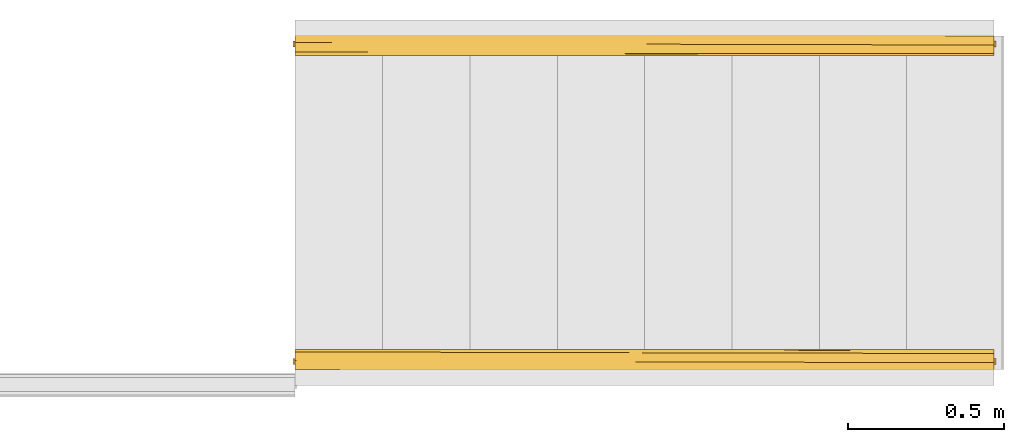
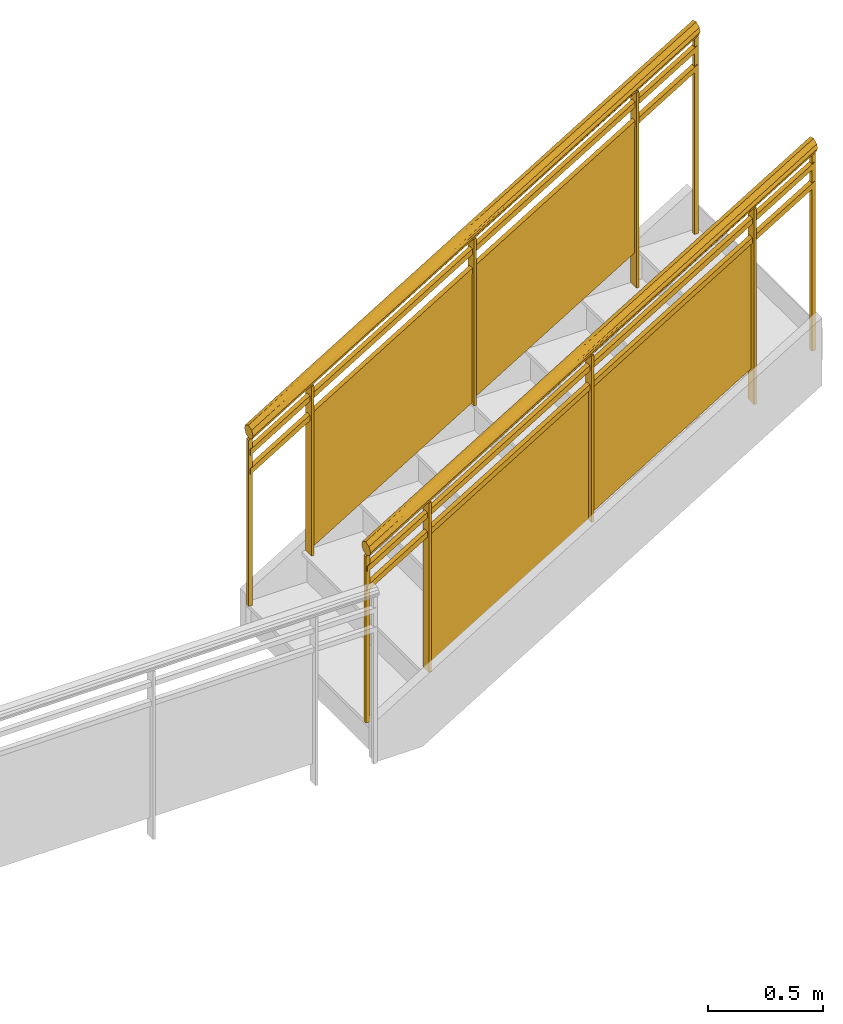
# One storey, part 4 of 4: 2 railings, 1 element without a shape of its own.
"""IFC2X3 building model written with IfcOpenShell, lengths in feet."""

from ifc_helpers import new_model, entity, si_unit, converted_unit, derived_unit, direction, frame, origin, place, context, subcontext, project, spatial, faceted_brep, material, material_list, element, aggregate, save


model = new_model("IFC2X3")

# Units and contexts
model_context = context("Model", 3, precision=0.0001, world=origin(), true_north=direction((6.12303176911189e-17, 1.0)))
body_context = subcontext(model_context, "Body", "Model", "MODEL_VIEW")
ifc_project = project(units=[converted_unit("LENGTHUNIT", "FOOT", entity("IfcRatioMeasure", 0.3048), si_unit("LENGTHUNIT", "METRE"), dimensions=[1, 0, 0, 0, 0, 0, 0]), converted_unit("AREAUNIT", "SQUARE FOOT", entity("IfcRatioMeasure", 0.09290304), si_unit("AREAUNIT", "SQUARE_METRE"), dimensions=[2, 0, 0, 0, 0, 0, 0]), converted_unit("VOLUMEUNIT", "CUBIC FOOT", entity("IfcRatioMeasure", 0.028316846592), si_unit("VOLUMEUNIT", "CUBIC_METRE"), dimensions=[3, 0, 0, 0, 0, 0, 0]), converted_unit("PLANEANGLEUNIT", "DEGREE", entity("IfcRatioMeasure", 0.0174532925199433), si_unit("PLANEANGLEUNIT", "RADIAN"), dimensions=[0, 0, 0, 0, 0, 0, 0]), si_unit("MASSUNIT", "GRAM", prefix="KILO"), derived_unit("MASSDENSITYUNIT", [(si_unit("MASSUNIT", "GRAM", prefix="KILO"), 1), (si_unit("LENGTHUNIT", "METRE"), -3)]), si_unit("TIMEUNIT", "SECOND"), si_unit("FREQUENCYUNIT", "HERTZ"), si_unit("THERMODYNAMICTEMPERATUREUNIT", "DEGREE_CELSIUS"), derived_unit("THERMALTRANSMITTANCEUNIT", [(si_unit("MASSUNIT", "GRAM", prefix="KILO"), 1), (si_unit("THERMODYNAMICTEMPERATUREUNIT", "KELVIN"), -1), (si_unit("TIMEUNIT", "SECOND"), -3)]), derived_unit("VOLUMETRICFLOWRATEUNIT", [(si_unit("LENGTHUNIT", "METRE"), 3), (si_unit("TIMEUNIT", "SECOND"), -1)]), si_unit("ELECTRICCURRENTUNIT", "AMPERE"), si_unit("ELECTRICVOLTAGEUNIT", "VOLT"), si_unit("POWERUNIT", "WATT"), si_unit("FORCEUNIT", "NEWTON"), si_unit("ILLUMINANCEUNIT", "LUX"), si_unit("LUMINOUSFLUXUNIT", "LUMEN"), si_unit("LUMINOUSINTENSITYUNIT", "CANDELA"), derived_unit("USERDEFINED", [(si_unit("MASSUNIT", "GRAM", prefix="KILO"), -1), (si_unit("LENGTHUNIT", "METRE"), -2), (si_unit("TIMEUNIT", "SECOND"), 3), (si_unit("LUMINOUSFLUXUNIT", "LUMEN"), 1)]), derived_unit("LINEARVELOCITYUNIT", [(si_unit("LENGTHUNIT", "METRE"), 1), (si_unit("TIMEUNIT", "SECOND"), -1)]), si_unit("PRESSUREUNIT", "PASCAL"), derived_unit("USERDEFINED", [(si_unit("LENGTHUNIT", "METRE"), -2), (si_unit("MASSUNIT", "GRAM", prefix="KILO"), 1), (si_unit("TIMEUNIT", "SECOND"), -2)])], contexts=[model_context])

# Site, building, storey
site_placement = place(None, origin())
site = spatial("IfcSite", under=ifc_project, at=site_placement, Name="Default", CompositionType="ELEMENT")
building_placement = place(site_placement, origin())
building = spatial("IfcBuilding", under=site, at=building_placement, CompositionType="ELEMENT")
storey_placement = place(building_placement, frame((0.0, 0.0, 55.0)))
storey = spatial("IfcBuildingStorey", under=building, at=storey_placement, Name="L 10", CompositionType="ELEMENT", Elevation=54.9999999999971)

# Stair, railings
stair_placement = place(storey_placement, origin())
stair = element("IfcStair", 1, at=stair_placement, inside=storey, Name="Assembled Stair:Stair", ObjectType="Assembled Stair:7\" max riser 11\" tread", ShapeType="NOTDEFINED")
ifc_material_1 = material(Name="Glass")
ifc_material_2 = material(Name="alum - color")
ifc_material_list_1 = material_list([ifc_material_1, ifc_material_2])
railing_1_placement = place(stair_placement, frame((-29.0126627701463, -11.8838750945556, 0.55555555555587)))
railing_1 = element("IfcRailing", 2, at=railing_1_placement, material=ifc_material_list_1, Name="Railing:Glass Panel - Bottom Fill", ObjectType="Railing:Glass Panel - Bottom Fill", PredefinedType="NOTDEFINED", context=body_context, shape_type="Brep", body=[
    faceted_brep([(6.33333333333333, 0.213567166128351, 6.71557302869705), (6.33333333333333, 0.213567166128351, 3.33333333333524), (6.33333333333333, 0.0469004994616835, 3.33333333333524), (6.33333333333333, 0.0469004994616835, 6.71557302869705), (6.375, 0.213567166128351, 6.74082555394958), (6.375, 0.213567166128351, 3.33333333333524), (6.375, 0.0469004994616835, 6.74082555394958), (6.375, 0.0469004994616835, 3.33333333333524)], [[[0, 1, 2, 3]], [[4, 5, 1, 0]], [[6, 7, 5, 4]], [[3, 2, 7, 6]], [[3, 6, 4, 0]], [[1, 5, 7, 2]]]),
    faceted_brep([(3.6875, 0.10879302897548, 2.3030303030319), (6.35416666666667, 0.108793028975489, 3.91919191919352), (6.35416666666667, 0.108793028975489, 6.1229955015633), (3.6875, 0.10879302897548, 4.50683388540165), (3.6875, 0.129626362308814, 2.3030303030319), (3.6875, 0.129626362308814, 4.50683388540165), (6.35416666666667, 0.129626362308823, 6.1229955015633), (6.35416666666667, 0.129626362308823, 3.91919191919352)], [[[0, 1, 2, 3]], [[4, 5, 6, 7]], [[3, 5, 4, 0]], [[2, 6, 5, 3]], [[1, 7, 6, 2]], [[0, 4, 7, 1]]]),
    faceted_brep([(3.66666666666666, 0.213567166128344, 5.09941141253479), (3.66666666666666, 0.213567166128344, 2.22222222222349), (3.66666666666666, 0.0469004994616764, 2.22222222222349), (3.66666666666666, 0.0469004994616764, 5.09941141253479), (3.70833333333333, 0.213567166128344, 5.12466393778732), (3.70833333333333, 0.213567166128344, 2.22222222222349), (3.70833333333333, 0.0469004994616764, 5.12466393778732), (3.70833333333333, 0.0469004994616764, 2.22222222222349)], [[[0, 1, 2, 3]], [[4, 5, 1, 0]], [[6, 7, 5, 4]], [[3, 2, 7, 6]], [[3, 6, 4, 0]], [[1, 5, 7, 2]]]),
    faceted_brep([(1.02083333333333, 0.108793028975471, 0.636363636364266), (3.6875, 0.10879302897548, 2.25252525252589), (3.6875, 0.10879302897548, 4.50683388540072), (1.02083333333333, 0.108793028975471, 2.89067226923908), (1.02083333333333, 0.129626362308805, 0.636363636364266), (1.02083333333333, 0.129626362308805, 2.89067226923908), (3.6875, 0.129626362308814, 4.50683388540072), (3.6875, 0.129626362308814, 2.25252525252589)], [[[0, 1, 2, 3]], [[4, 5, 6, 7]], [[3, 5, 4, 0]], [[2, 6, 5, 3]], [[1, 7, 6, 2]], [[0, 4, 7, 1]]]),
    faceted_brep([(1.0, 0.213567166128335, 3.48324979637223), (1.0, 0.213567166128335, 0.555555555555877), (1.0, 0.0469004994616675, 0.555555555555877), (1.0, 0.0469004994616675, 3.48324979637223), (1.04166666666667, 0.213567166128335, 3.50850232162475), (1.04166666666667, 0.213567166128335, 0.555555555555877), (1.04166666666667, 0.0469004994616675, 3.50850232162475), (1.04166666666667, 0.0469004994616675, 0.555555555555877)], [[[0, 1, 2, 3]], [[4, 5, 1, 0]], [[6, 7, 5, 4]], [[3, 2, 7, 6]], [[3, 6, 4, 0]], [[1, 5, 7, 2]]]),
    faceted_brep([(7.3125, 0.161483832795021, 7.30900737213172), (7.3125, 0.161483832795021, 3.88888888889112), (7.3125, 0.098983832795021, 3.88888888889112), (7.3125, 0.098983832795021, 7.30900737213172), (7.375, 0.161483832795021, 7.3468861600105), (7.375, 0.161483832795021, 3.88888888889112), (7.375, 0.098983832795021, 7.3468861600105), (7.375, 0.098983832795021, 3.88888888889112)], [[[0, 1, 2, 3]], [[4, 5, 1, 0]], [[6, 7, 5, 4]], [[3, 2, 7, 6]], [[3, 6, 4, 0]], [[1, 5, 7, 2]]]),
    faceted_brep([(0.0, 0.161483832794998, 2.8771891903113), (0.0, 0.161483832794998, 0.0), (0.0, 0.0989838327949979, 0.0), (0.0, 0.0989838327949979, 2.8771891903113), (0.0625, 0.161483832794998, 2.91506797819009), (0.0625, 0.161483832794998, 0.0), (0.0625, 0.0989838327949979, 2.91506797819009), (0.0625, 0.0989838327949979, 0.0)], [[[0, 1, 2, 3]], [[4, 5, 1, 0]], [[6, 7, 5, 4]], [[3, 2, 7, 6]], [[3, 6, 4, 0]], [[1, 5, 7, 2]]]),
    faceted_brep([(0.0208333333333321, 0.171900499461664, 2.71538833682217), (0.0208333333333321, 0.171900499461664, 2.61794499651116), (0.0208333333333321, 0.08856716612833, 2.61794499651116), (0.0208333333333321, 0.0885671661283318, 2.71538833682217), (7.35416666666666, 0.171900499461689, 7.15983278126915), (7.35416666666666, 0.0885671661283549, 7.15983278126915), (7.35416666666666, 0.0885671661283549, 7.06238944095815), (7.35416666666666, 0.171900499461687, 7.06238944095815)], [[[0, 1, 2, 3]], [[4, 5, 6, 7]], [[0, 3, 5, 4]], [[3, 2, 6, 5]], [[2, 1, 7, 6]], [[1, 0, 4, 7]]]),
    faceted_brep([(0.0208333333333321, 0.171900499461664, 2.38205500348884), (0.0208333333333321, 0.171900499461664, 2.28461166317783), (0.0208333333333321, 0.08856716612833, 2.28461166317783), (0.0208333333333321, 0.0885671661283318, 2.38205500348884), (7.35416666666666, 0.171900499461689, 6.82649944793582), (7.35416666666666, 0.0885671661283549, 6.82649944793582), (7.35416666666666, 0.0885671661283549, 6.72905610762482), (7.35416666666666, 0.171900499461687, 6.72905610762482)], [[[0, 1, 2, 3]], [[4, 5, 6, 7]], [[0, 3, 5, 4]], [[3, 2, 6, 5]], [[2, 1, 7, 6]], [[1, 0, 4, 7]]]),
    faceted_brep([(0.0208333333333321, 0.0465925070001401, 3.08146632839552), (0.0208333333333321, 0.0949461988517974, 3.09524477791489), (0.0208333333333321, 0.143299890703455, 3.10902322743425), (0.0208333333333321, 0.187330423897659, 3.08672922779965), (0.0208333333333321, 0.231360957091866, 3.06443522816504), (0.0208333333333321, 0.243297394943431, 3.03221761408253), (0.0208333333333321, 0.255233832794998, 3.0), (0.0208333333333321, 0.234554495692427, 2.95926683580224), (0.0208333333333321, 0.213875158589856, 2.91853367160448), (0.0208333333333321, 0.1655214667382, 2.90475522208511), (0.0208333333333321, 0.141344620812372, 2.89786599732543), (0.0208333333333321, 0.117167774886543, 2.89097677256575), (0.0208333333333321, 0.0731372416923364, 2.91327077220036), (0.0208333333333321, 0.02910670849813, 2.93556477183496), (0.0208333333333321, 0.0171702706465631, 2.96778238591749), (0.0208333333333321, 0.00523383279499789, 3.0), (0.0208333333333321, 0.0259131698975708, 3.04073316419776), (7.35416666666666, 0.0259131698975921, 7.40371128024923), (7.35416666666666, 0.0465925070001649, 7.36297811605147), (7.35416666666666, 0.0949461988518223, 7.3491996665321), (7.35416666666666, 0.143299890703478, 7.33542121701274), (7.35416666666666, 0.187330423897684, 7.35771521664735), (7.35416666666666, 0.231360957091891, 7.38000921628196), (7.35416666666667, 0.243297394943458, 7.41222683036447), (7.35416666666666, 0.255233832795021, 7.44444444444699), (7.35416666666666, 0.244378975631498, 7.46582582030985), (7.35416666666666, 0.23455449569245, 7.48517760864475), (7.35416666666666, 0.213875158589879, 7.52591077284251), (7.35416666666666, 0.165521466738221, 7.53968922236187), (7.35416666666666, 0.117167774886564, 7.55346767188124), (7.35416666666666, 0.0951525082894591, 7.54232067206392), (7.35416666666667, 0.0731372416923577, 7.53117367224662), (7.35416666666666, 0.0291067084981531, 7.50887967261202), (7.35416666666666, 0.0171702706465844, 7.4766620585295), (7.35416666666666, 0.00523383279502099, 7.44444444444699), (3.7002905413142, 0.246755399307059, 5.19028869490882), (3.87247818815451, 0.177511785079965, 5.23284993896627), (3.91578387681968, 0.207600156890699, 5.27447257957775), (3.07871506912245, 0.231313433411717, 4.78876910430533), (3.15948324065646, 0.255233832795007, 4.90221206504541), (4.21550890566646, 0.25523383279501, 5.54222761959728), (4.04114830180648, 0.0629732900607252, 5.34415364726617), (3.2258587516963, 0.0946029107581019, 4.83736380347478), (3.68929300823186, 0.130201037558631, 5.1136851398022), (3.72718018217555, 0.0367721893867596, 5.17347577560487), (3.44651497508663, 0.0177333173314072, 5.02838773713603), (3.15949893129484, 0.00523383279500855, 4.90222157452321), (3.54783177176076, 0.0115093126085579, 5.17187272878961), (3.33044597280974, 0.0259810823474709, 5.06630868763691), (4.14481111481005, 0.0490518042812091, 5.58273826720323), (3.68590222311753, 0.079440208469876, 5.32141906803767), (3.19149194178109, 0.251785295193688, 4.94718335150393), (3.5434095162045, 0.127144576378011, 5.24448493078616), (3.42716626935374, 0.16162344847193, 5.17055526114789), (3.59902271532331, 0.221853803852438, 5.24317359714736), (3.3792658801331, 0.241652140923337, 5.08510860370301), (4.26044448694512, 0.19332795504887, 5.66409552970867)], [[[0, 1, 2, 3, 4, 5, 6, 7, 8, 9, 10, 11, 12, 13, 14, 15, 16]], [[17, 18, 19, 20, 21, 22, 23, 24, 25, 26, 27, 28, 29, 30, 31, 32, 33, 34]], [[35, 7, 6]], [[9, 8, 36, 10]], [[22, 37, 38]], [[37, 36, 8]], [[21, 36, 37]], [[35, 6, 39, 40]], [[41, 42, 19]], [[38, 7, 35]], [[19, 42, 43]], [[44, 41, 18]], [[13, 45, 14]], [[8, 38, 37]], [[44, 12, 41]], [[38, 8, 7]], [[11, 43, 42]], [[17, 34, 46]], [[35, 23, 22]], [[11, 10, 43]], [[40, 24, 23]], [[21, 37, 22]], [[36, 21, 20]], [[36, 20, 43]], [[36, 43, 10]], [[43, 20, 19]], [[42, 12, 11]], [[12, 42, 41]], [[13, 12, 44]], [[18, 41, 19]], [[46, 15, 14]], [[44, 18, 17]], [[17, 45, 44]], [[38, 35, 22]], [[45, 17, 46]], [[23, 35, 40]], [[44, 45, 13]], [[14, 45, 46]], [[16, 47, 48]], [[0, 48, 49]], [[49, 31, 50]], [[31, 30, 50]], [[51, 26, 25]], [[2, 52, 53]], [[54, 27, 26]], [[54, 55, 4]], [[26, 51, 55]], [[47, 16, 15]], [[54, 26, 55]], [[5, 4, 55]], [[25, 24, 40, 39]], [[56, 54, 3]], [[56, 3, 53]], [[50, 0, 49]], [[27, 54, 56]], [[51, 39, 6]], [[53, 52, 28]], [[54, 4, 3]], [[56, 28, 27]], [[28, 56, 53]], [[5, 55, 51]], [[29, 28, 52]], [[2, 53, 3]], [[30, 29, 52]], [[52, 2, 1]], [[1, 0, 50]], [[52, 50, 30]], [[1, 50, 52]], [[49, 32, 31]], [[32, 49, 48]], [[33, 48, 47]], [[16, 48, 0]], [[46, 34, 47, 15]], [[33, 32, 48]], [[33, 47, 34]], [[5, 51, 6]], [[39, 51, 25]]]),
])
ifc_material_list_2 = material_list([ifc_material_1, ifc_material_2])
railing_2_placement = place(stair_placement, frame((-29.0126627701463, -15.2172084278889, 0.55555555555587)))
railing_2 = element("IfcRailing", 3, at=railing_2_placement, material=ifc_material_list_2, Name="Railing:Glass Panel - Bottom Fill", ObjectType="Railing:Glass Panel - Bottom Fill", PredefinedType="NOTDEFINED", context=body_context, shape_type="Brep", body=[
    faceted_brep([(6.33333333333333, 0.0469004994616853, 6.71557302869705), (6.33333333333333, 0.213567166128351, 6.71557302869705), (6.33333333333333, 0.213567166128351, 3.33333333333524), (6.33333333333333, 0.0469004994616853, 3.33333333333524), (6.375, 0.0469004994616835, 6.74082555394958), (6.375, 0.0469004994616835, 3.33333333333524), (6.375, 0.21356716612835, 6.74082555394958), (6.375, 0.21356716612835, 3.33333333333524)], [[[0, 1, 2, 3]], [[4, 0, 3, 5]], [[6, 4, 5, 7]], [[1, 6, 7, 2]], [[1, 0, 4, 6]], [[3, 2, 7, 5]]]),
    faceted_brep([(3.6875, 0.151674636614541, 2.3030303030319), (3.6875, 0.151674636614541, 4.50683388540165), (6.35416666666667, 0.151674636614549, 6.1229955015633), (6.35416666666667, 0.151674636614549, 3.91919191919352), (3.6875, 0.130841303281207, 2.3030303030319), (6.35416666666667, 0.130841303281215, 3.91919191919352), (6.35416666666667, 0.130841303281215, 6.1229955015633), (3.6875, 0.130841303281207, 4.50683388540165)], [[[0, 1, 2, 3]], [[4, 5, 6, 7]], [[1, 0, 4, 7]], [[2, 1, 7, 6]], [[3, 2, 6, 5]], [[0, 3, 5, 4]]]),
    faceted_brep([(3.66666666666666, 0.0469004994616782, 5.09941141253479), (3.66666666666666, 0.213567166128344, 5.09941141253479), (3.66666666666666, 0.213567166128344, 2.22222222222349), (3.66666666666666, 0.0469004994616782, 2.22222222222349), (3.70833333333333, 0.0469004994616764, 5.12466393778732), (3.70833333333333, 0.0469004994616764, 2.22222222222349), (3.70833333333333, 0.213567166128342, 5.12466393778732), (3.70833333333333, 0.213567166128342, 2.22222222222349)], [[[0, 1, 2, 3]], [[4, 0, 3, 5]], [[6, 4, 5, 7]], [[1, 6, 7, 2]], [[1, 0, 4, 6]], [[3, 2, 7, 5]]]),
    faceted_brep([(1.02083333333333, 0.151674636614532, 0.636363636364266), (1.02083333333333, 0.151674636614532, 2.89067226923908), (3.6875, 0.151674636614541, 4.50683388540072), (3.6875, 0.151674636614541, 2.25252525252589), (1.02083333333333, 0.130841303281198, 0.636363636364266), (3.6875, 0.130841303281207, 2.25252525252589), (3.6875, 0.130841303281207, 4.50683388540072), (1.02083333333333, 0.130841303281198, 2.89067226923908)], [[[0, 1, 2, 3]], [[4, 5, 6, 7]], [[1, 0, 4, 7]], [[2, 1, 7, 6]], [[3, 2, 6, 5]], [[0, 3, 5, 4]]]),
    faceted_brep([(1.0, 0.0469004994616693, 3.48324979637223), (1.0, 0.213567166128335, 3.48324979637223), (1.0, 0.213567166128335, 0.555555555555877), (1.0, 0.0469004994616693, 0.555555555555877), (1.04166666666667, 0.0469004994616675, 3.50850232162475), (1.04166666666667, 0.0469004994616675, 0.555555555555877), (1.04166666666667, 0.213567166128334, 3.50850232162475), (1.04166666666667, 0.213567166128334, 0.555555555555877)], [[[0, 1, 2, 3]], [[4, 0, 3, 5]], [[6, 4, 5, 7]], [[1, 6, 7, 2]], [[1, 0, 4, 6]], [[3, 2, 7, 5]]]),
    faceted_brep([(7.3125, 0.098983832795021, 7.30900737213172), (7.3125, 0.161483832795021, 7.30900737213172), (7.3125, 0.161483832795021, 3.88888888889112), (7.3125, 0.098983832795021, 3.88888888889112), (7.375, 0.098983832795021, 7.3468861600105), (7.375, 0.098983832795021, 3.88888888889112), (7.375, 0.161483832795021, 7.3468861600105), (7.375, 0.161483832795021, 3.88888888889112)], [[[0, 1, 2, 3]], [[4, 0, 3, 5]], [[6, 4, 5, 7]], [[1, 6, 7, 2]], [[1, 0, 4, 6]], [[3, 2, 7, 5]]]),
    faceted_brep([(0.0, 0.0989838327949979, 2.8771891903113), (0.0, 0.161483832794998, 2.8771891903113), (0.0, 0.161483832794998, 0.0), (0.0, 0.0989838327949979, 0.0), (0.0625, 0.0989838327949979, 2.91506797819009), (0.0625, 0.0989838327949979, 0.0), (0.0625, 0.161483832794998, 2.91506797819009), (0.0625, 0.161483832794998, 0.0)], [[[0, 1, 2, 3]], [[4, 0, 3, 5]], [[6, 4, 5, 7]], [[1, 6, 7, 2]], [[1, 0, 4, 6]], [[3, 2, 7, 5]]]),
    faceted_brep([(0.0208333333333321, 0.08856716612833, 2.71538833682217), (0.0208333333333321, 0.171900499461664, 2.71538833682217), (0.0208333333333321, 0.171900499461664, 2.61794499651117), (0.0208333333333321, 0.0885671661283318, 2.61794499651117), (7.35416666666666, 0.0885671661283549, 7.15983278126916), (7.35416666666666, 0.0885671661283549, 7.06238944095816), (7.35416666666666, 0.171900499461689, 7.06238944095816), (7.35416666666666, 0.171900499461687, 7.15983278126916)], [[[0, 1, 2, 3]], [[4, 5, 6, 7]], [[0, 3, 5, 4]], [[3, 2, 6, 5]], [[2, 1, 7, 6]], [[1, 0, 4, 7]]]),
    faceted_brep([(0.0208333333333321, 0.08856716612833, 2.38205500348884), (0.0208333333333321, 0.171900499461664, 2.38205500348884), (0.0208333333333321, 0.171900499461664, 2.28461166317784), (0.0208333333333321, 0.0885671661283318, 2.28461166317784), (7.35416666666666, 0.0885671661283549, 6.82649944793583), (7.35416666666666, 0.0885671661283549, 6.72905610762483), (7.35416666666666, 0.171900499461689, 6.72905610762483), (7.35416666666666, 0.171900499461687, 6.82649944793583)], [[[0, 1, 2, 3]], [[4, 5, 6, 7]], [[0, 3, 5, 4]], [[3, 2, 6, 5]], [[2, 1, 7, 6]], [[1, 0, 4, 7]]]),
    faceted_brep([(0.0208333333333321, 0.0465925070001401, 3.08146632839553), (0.0208333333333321, 0.0949461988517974, 3.09524477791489), (0.0208333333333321, 0.143299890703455, 3.10902322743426), (0.0208333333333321, 0.187330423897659, 3.08672922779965), (0.0208333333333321, 0.231360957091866, 3.06443522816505), (0.0208333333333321, 0.243297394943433, 3.03221761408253), (0.0208333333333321, 0.255233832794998, 3.0), (0.0208333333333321, 0.234554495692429, 2.95926683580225), (0.0208333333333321, 0.213875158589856, 2.91853367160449), (0.0208333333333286, 0.165521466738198, 2.90475522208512), (0.020833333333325, 0.141344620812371, 2.89786599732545), (0.0208333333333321, 0.117167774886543, 2.89097677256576), (0.0208333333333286, 0.0731372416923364, 2.91327077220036), (0.0208333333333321, 0.02910670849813, 2.93556477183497), (0.0208333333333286, 0.0171702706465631, 2.9677823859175), (0.0208333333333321, 0.00523383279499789, 3.0), (0.0208333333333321, 0.025913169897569, 3.04073316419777), (7.35416666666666, 0.0259131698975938, 7.40371128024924), (7.35416666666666, 0.0465925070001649, 7.36297811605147), (7.35416666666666, 0.0949461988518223, 7.34919966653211), (7.35416666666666, 0.143299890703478, 7.33542121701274), (7.35416666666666, 0.187330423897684, 7.35771521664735), (7.35416666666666, 0.231360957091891, 7.38000921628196), (7.35416666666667, 0.243297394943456, 7.41222683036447), (7.35416666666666, 0.255233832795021, 7.44444444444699), (7.35416666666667, 0.244378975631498, 7.46582582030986), (7.35416666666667, 0.23455449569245, 7.48517760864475), (7.35416666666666, 0.213875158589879, 7.52591077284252), (7.35416666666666, 0.165521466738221, 7.53968922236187), (7.35416666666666, 0.117167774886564, 7.55346767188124), (7.35416666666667, 0.0951525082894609, 7.54232067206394), (7.35416666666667, 0.0731372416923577, 7.53117367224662), (7.35416666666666, 0.0291067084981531, 7.50887967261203), (7.35416666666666, 0.0171702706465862, 7.47666205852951), (7.35416666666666, 0.00523383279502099, 7.44444444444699), (3.70029054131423, 0.246755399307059, 5.19028869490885), (3.87247818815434, 0.177511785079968, 5.23284993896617), (3.91578387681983, 0.207600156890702, 5.27447257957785), (3.07871506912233, 0.231313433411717, 4.78876910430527), (3.15948761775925, 0.255233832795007, 4.90221471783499), (4.21550890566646, 0.25523383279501, 5.5422276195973), (4.04114830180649, 0.0629732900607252, 5.34415364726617), (3.2258587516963, 0.0946029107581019, 4.83736380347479), (3.68929300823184, 0.130201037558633, 5.11368513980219), (3.72718018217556, 0.0367721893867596, 5.17347577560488), (3.44651497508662, 0.0177333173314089, 5.02838773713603), (3.15950602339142, 0.00523383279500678, 4.90222587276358), (3.54783177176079, 0.0115093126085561, 5.17187272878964), (3.3304459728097, 0.0259810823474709, 5.06630868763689), (4.14481111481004, 0.0490518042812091, 5.58273826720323), (3.68590222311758, 0.079440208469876, 5.32141906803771), (3.19149194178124, 0.25178529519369, 4.94718335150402), (3.54340951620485, 0.127144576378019, 5.24448493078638), (3.42716626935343, 0.161623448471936, 5.17055526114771), (3.59902271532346, 0.22185380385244, 5.24317359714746), (3.37926588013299, 0.241652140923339, 5.08510860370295), (4.26044448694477, 0.193327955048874, 5.66409552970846)], [[[0, 1, 2, 3, 4, 5, 6, 7, 8, 9, 10, 11, 12, 13, 14, 15, 16]], [[17, 18, 19, 20, 21, 22, 23, 24, 25, 26, 27, 28, 29, 30, 31, 32, 33, 34]], [[35, 7, 6]], [[9, 8, 36, 10]], [[22, 37, 38]], [[37, 36, 8]], [[21, 36, 37]], [[35, 6, 39, 40]], [[41, 42, 19]], [[38, 7, 35]], [[19, 42, 43]], [[44, 41, 18]], [[13, 45, 14]], [[8, 38, 37]], [[44, 12, 41]], [[38, 8, 7]], [[11, 43, 42]], [[17, 34, 46]], [[35, 23, 22]], [[11, 10, 43]], [[40, 24, 23]], [[21, 37, 22]], [[36, 21, 20]], [[36, 20, 43]], [[36, 43, 10]], [[43, 20, 19]], [[42, 12, 11]], [[12, 42, 41]], [[13, 12, 44]], [[18, 41, 19]], [[46, 15, 14]], [[44, 18, 17]], [[17, 45, 44]], [[38, 35, 22]], [[45, 17, 46]], [[23, 35, 40]], [[44, 45, 13]], [[14, 45, 46]], [[16, 47, 48]], [[0, 48, 49]], [[49, 31, 50]], [[31, 30, 50]], [[51, 26, 25]], [[2, 52, 53]], [[54, 27, 26]], [[54, 55, 4]], [[26, 51, 55]], [[47, 16, 15]], [[54, 26, 55]], [[5, 4, 55]], [[25, 24, 40, 39]], [[56, 54, 3]], [[56, 3, 53]], [[50, 0, 49]], [[27, 54, 56]], [[51, 39, 6]], [[53, 52, 28]], [[54, 4, 3]], [[56, 28, 27]], [[28, 56, 53]], [[5, 55, 51]], [[29, 28, 52]], [[2, 53, 3]], [[30, 29, 52]], [[52, 2, 1]], [[1, 0, 50]], [[52, 50, 30]], [[1, 50, 52]], [[49, 32, 31]], [[32, 49, 48]], [[33, 48, 47]], [[16, 48, 0]], [[46, 34, 47, 15]], [[33, 32, 48]], [[33, 47, 34]], [[5, 51, 6]], [[39, 51, 25]]]),
])
aggregate(stair, [railing_1, railing_2])

save(model, "model.ifc")
